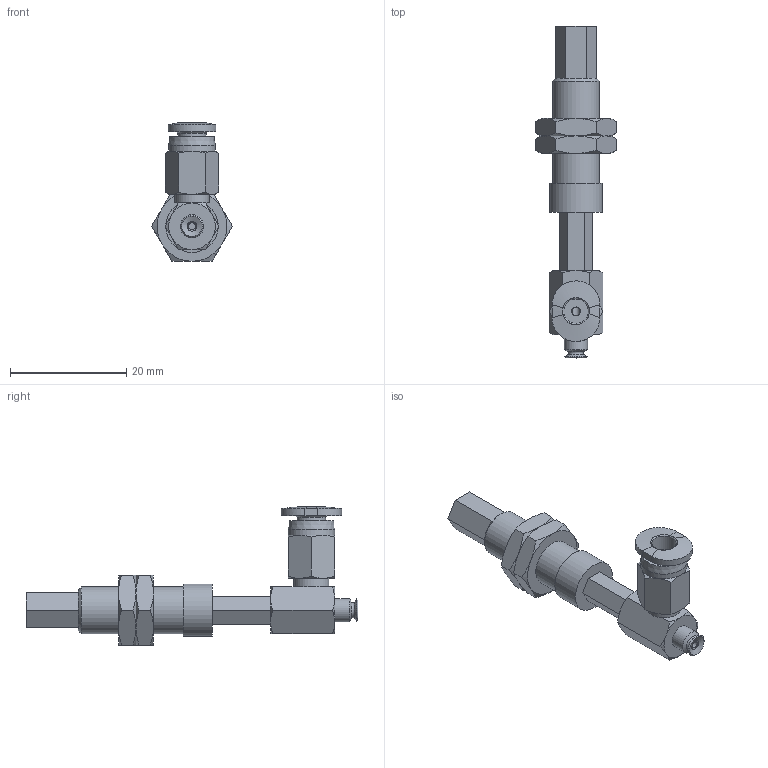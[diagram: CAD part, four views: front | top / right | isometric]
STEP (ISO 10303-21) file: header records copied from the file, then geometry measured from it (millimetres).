
FILE_DESCRIPTION(('STEP AP203'),'1');
FILE_NAME('-O.stp','2025-04-10T02:30:01',(' '),(' '),'Spatial InterOp 3D',' ',' ');
FILE_SCHEMA(('CONFIG_CONTROL_DESIGN'));
Length unit declared in the file: millimetre
Products named in the file (7): BNABPFYH-3.5A-10-※-O; CONNECTOR-H-3.5A-10; Nut-3.5A-10-h; NAPFTH-3.5A-10-FBODY; NAPFTH-3.5A-10-MBODY; BPFG-3.5A-※; PC-C_04-M3
Assembly tree (7 placements, depth 2):
  BNABPFYH-3.5A-10-※-O
    CONNECTOR-H-3.5A-10
    Nut-3.5A-10-h  x2
    NAPFTH-3.5A-10-FBODY
    NAPFTH-3.5A-10-MBODY
    BPFG-3.5A-※
    PC-C_04-M3
Bounding box: 13.86 x 57 x 23.77 mm (x, y, z)
Volume: 2760.9 mm3; surface area: 4064.6 mm2
Topology: 6 solids, 8 shells, 188 faces, 399 edges, 242 vertices
Faces by surface type: plane 81, cone 67, cylinder 23, torus 9, bspline 5, revolution 3
Full cylindrical faces by diameter (mm): 1.2 x2, 2 x2, 2.459 x2, 2.5 x2, 3 x4, 4 x1, 4.9 x1, 6 x1, 6.1 x1, 7.188 x2, 8 x2, 9 x1
Entity records: 4905 total; most frequent: CARTESIAN_POINT 1342, DIRECTION 657, ORIENTED_EDGE 590, EDGE_CURVE 296, AXIS2_PLACEMENT_3D 275, EDGE_LOOP 238, VERTEX_POINT 206, FACE_OUTER_BOUND 135
